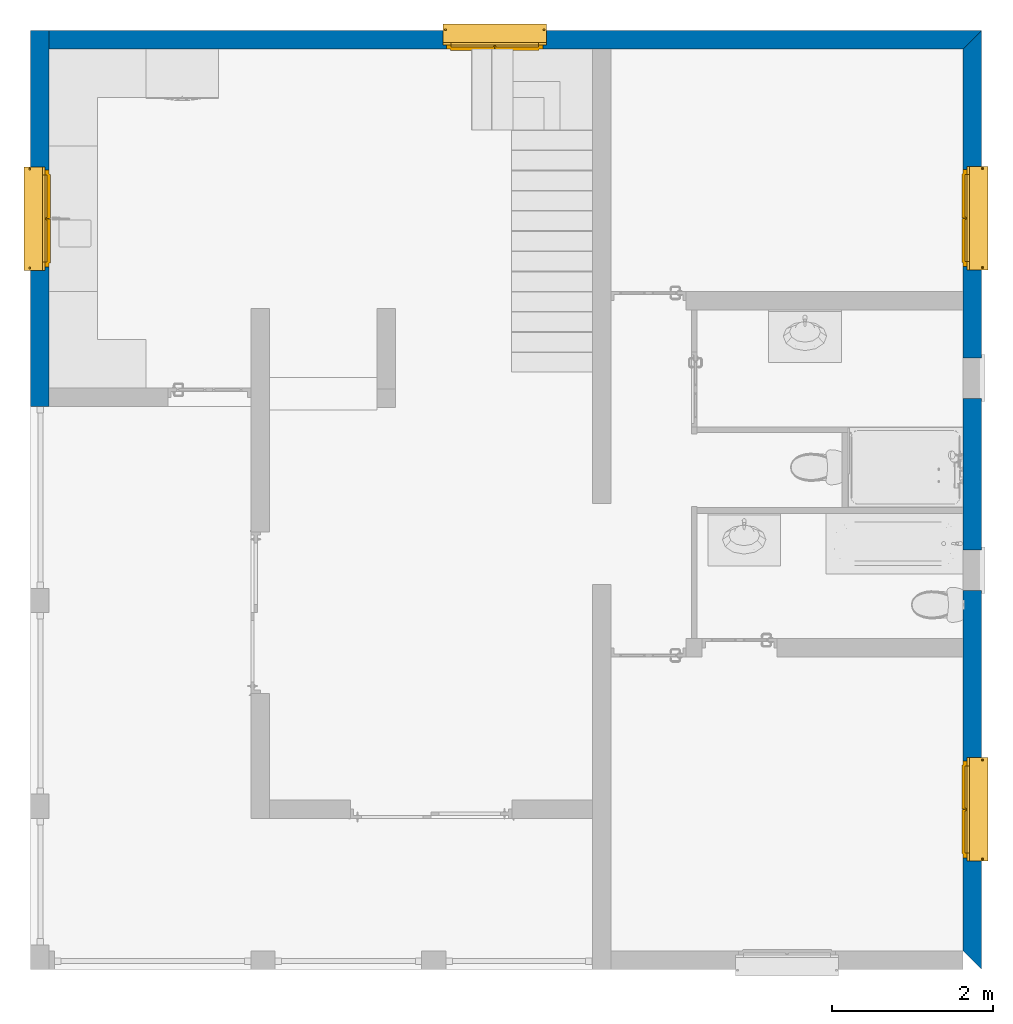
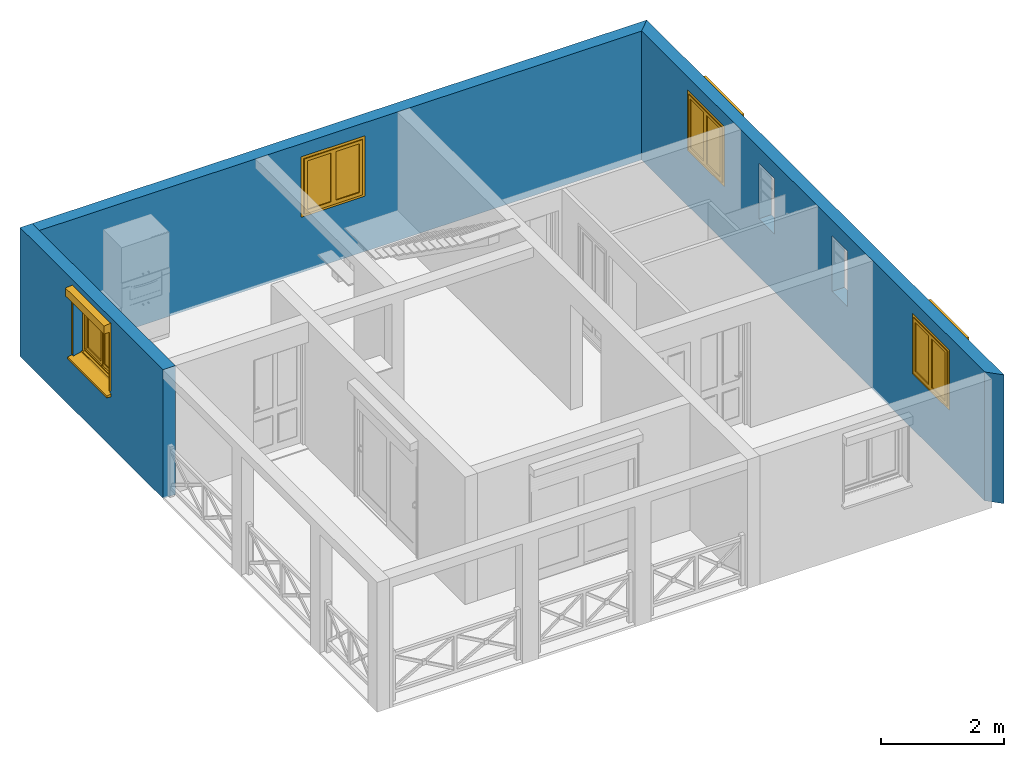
# One storey, part 3 of 17: 4 windows, 3 walls, 6 openings.
"""IFC2X3 building model written with IfcOpenShell, lengths in metres."""

from ifc_helpers import new_model, entity, si_unit, converted_unit, derived_unit, money_unit, direction, frame, origin_with_axes, place, context, subcontext, project, spatial, polyline, outline, extrude, clip, halfspace, bounded_halfspace, faceted_brep, source, transform, mapped, material, layer, layer_set, layer_usage, type_object, element, fill, save


model = new_model("IFC2X3")

# Units and contexts
model_context = context("Model", 3, precision=1e-05, world=origin_with_axes(), true_north=direction((0.0, 1.0)))
body_context = subcontext(model_context, "Body", "Model", "MODEL_VIEW")
ifc_project = project(units=[si_unit("LENGTHUNIT", "METRE"), si_unit("AREAUNIT", "SQUARE_METRE"), si_unit("VOLUMEUNIT", "CUBIC_METRE"), converted_unit("PLANEANGLEUNIT", "DEGREE", entity("IfcPlaneAngleMeasure", 0.0174532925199), si_unit("PLANEANGLEUNIT", "RADIAN"), dimensions=[0, 0, 0, 0, 0, 0, 0]), si_unit("SOLIDANGLEUNIT", "STERADIAN"), money_unit("CHF"), converted_unit("TIMEUNIT", "Year", entity("IfcTimeMeasure", 31556926.0), si_unit("TIMEUNIT", "SECOND"), dimensions=[0, 0, 1, 0, 0, 0, 0]), si_unit("MASSUNIT", "GRAM", prefix="KILO"), si_unit("THERMODYNAMICTEMPERATUREUNIT", "DEGREE_CELSIUS"), si_unit("LUMINOUSINTENSITYUNIT", "LUMEN"), si_unit("ENERGYUNIT", "JOULE", prefix="MEGA"), derived_unit("THERMALCONDUCTANCEUNIT", [(si_unit("POWERUNIT", "WATT"), 1), (si_unit("LENGTHUNIT", "METRE"), -1), (si_unit("THERMODYNAMICTEMPERATUREUNIT", "KELVIN"), -1)]), derived_unit("SPECIFICHEATCAPACITYUNIT", [(si_unit("ENERGYUNIT", "JOULE"), 1), (si_unit("MASSUNIT", "GRAM", prefix="KILO"), -1), (si_unit("THERMODYNAMICTEMPERATUREUNIT", "KELVIN"), -1)]), derived_unit("MASSDENSITYUNIT", [(si_unit("MASSUNIT", "GRAM", prefix="KILO"), 1), (si_unit("VOLUMEUNIT", "CUBIC_METRE"), -1)])], contexts=[model_context])

# Site, building, storey
site_placement = place(None, origin_with_axes())
site = spatial("IfcSite", under=ifc_project, at=site_placement, Name="Site", CompositionType="ELEMENT")
building_placement = place(site_placement, origin_with_axes())
building = spatial("IfcBuilding", under=site, at=building_placement, Name="Bâtiment", CompositionType="ELEMENT")
storey_placement = place(building_placement, frame((0.0, 0.0, 3.0), z_axis=(0.0, 0.0, 1.0), x_axis=(1.0, 0.0, 0.0)))
storey = spatial("IfcBuildingStorey", under=building, at=storey_placement, Name="RDJ", CompositionType="ELEMENT", Elevation=3.0)

# Wall, opening, window
ifc_material = material(Name="Hachure solide 2628782308")
ifc_layer = layer(ifc_material, 0.23, ventilated="UNKNOWN")
ifc_layer_set = layer_set([ifc_layer], Name="Hachure solide 2628782308 0.23")
ifc_layer_usage_1 = layer_usage(ifc_layer_set, "AXIS2", "POSITIVE", -0.23)
wall_type = type_object("IfcWallType", Name="Hachure solide 2628782308 230", PredefinedType="NOTDEFINED")
wall_1_placement = place(storey_placement, frame((85.0135190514, 18.8103410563, -3.05), z_axis=(0.0, 0.0, 1.0), x_axis=(0.0, -1.0, 0.0)))
wall_1 = element("IfcWallStandardCase", 1, at=wall_1_placement, inside=storey, type_object=wall_type, material=ifc_layer_usage_1, Name="MurExt-008", context=body_context, shape_type="Clipping", body=[
    clip(extrude(outline(polyline([(0.0, -0.23), (4.66, -0.23), (4.66, 0.0), (0.0, 0.0), (0.0, -0.23)])), origin_with_axes(), (0.0, 0.0, 1.0), 2.56), halfspace(frame((0.0, -1.31271539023, 2.27368975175), z_axis=(0.0, 0.5, -0.866025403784), x_axis=(0.0, 0.866025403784, 0.5)), True)),
])
opening_1_placement = place(wall_1_placement, frame((2.33, 0.0, 1.1), z_axis=(0.0, 0.0, 1.0), x_axis=(1.0, 0.0, 0.0)))
opening_1 = element("IfcOpeningElement", 2, at=opening_1_placement, cuts=wall_1, Name="Fen-009", context=body_context, shape_type="SweptSolid", body=[
    extrude(outline(polyline([(0.6, 0.0), (-0.6, 0.0), (-0.6, -0.9), (0.0, 0.0), (0.6, -0.9), (0.6, 0.0)])), frame((0.0, 0.23, 0.0), z_axis=(0.0, 1.0, 0.0), x_axis=(1.0, 0.0, 0.0)), (0.0, 0.0, -1.0), 0.46),
    extrude(outline(polyline([(-0.6, -1.2), (0.6, -1.2), (0.6, 0.0), (-0.6, 0.0), (-0.6, -1.2)])), frame((0.0, 0.23, 0.0), z_axis=(0.0, 1.0, 0.0), x_axis=(1.0, 0.0, 0.0)), (0.0, 0.0, -1.0), 0.46),
    extrude(outline(polyline([(0.6, -0.1), (0.6, 0.001), (-0.6, 0.001), (-0.6, -0.1), (0.6, -0.1)])), frame((0.0, -0.05, 0.0), z_axis=(0.0, -1.0, 0.0), x_axis=(1.0, 0.0, 0.0)), (0.0, 0.0, 1.0), 0.23),
])
window_style = type_object("IfcWindowStyle", Name="Fenêtre 2v", ConstructionType="NOTDEFINED", OperationType="NOTDEFINED", ParameterTakesPrecedence=False, Sizeable=False)
shared_shape = source(origin_with_axes(), body_context, "Body", "Brep", [
    faceted_brep([(0.6, -0.23, 0.0), (0.54, -0.23, 0.0), (0.54, -0.18, 0.0), (0.6, -0.18, 0.0), (0.6, -0.23, 1.2), (-0.6, -0.23, 1.2), (-0.6, -0.23, 0.0), (-0.54, -0.23, 0.0), (-0.54, -0.23, 1.14), (0.54, -0.23, 1.14), (0.54, -0.18, 1.14), (-0.54, -0.18, 1.14), (-0.54, -0.18, 0.0), (-0.6, -0.18, 0.0), (-0.6, -0.18, 1.2), (0.6, -0.18, 1.2)], [[[0, 1, 2, 3]], [[0, 4, 5, 6, 7, 8, 9, 1]], [[1, 9, 10, 2]], [[3, 2, 10, 11, 12, 13, 14, 15]], [[4, 0, 3, 15]], [[5, 4, 15, 14]], [[6, 5, 14, 13]], [[7, 6, 13, 12]], [[8, 7, 12, 11]], [[9, 8, 11, 10]]]),
    faceted_brep([(-0.54, -0.23, 0.0), (-0.54, -0.23, 0.06), (-0.54, -0.18, 0.06), (-0.54, -0.18, 0.0), (0.54, -0.23, 0.0), (0.54, -0.23, 0.06), (0.54, -0.18, 0.06), (0.54, -0.18, 0.0)], [[[0, 1, 2, 3]], [[0, 4, 5, 1]], [[1, 5, 6, 2]], [[3, 2, 6, 7]], [[4, 0, 3, 7]], [[5, 4, 7, 6]]]),
    faceted_brep([(-0.54, -0.15, 0.0), (-0.54, -0.18, 0.0), (-0.54, -0.18, 0.04), (-0.54, -0.15, 0.02), (0.54, -0.15, 0.0), (0.54, -0.18, 0.0), (0.54, -0.18, 0.04), (0.54, -0.15, 0.02)], [[[0, 1, 2, 3]], [[0, 4, 5, 1]], [[1, 5, 6, 2]], [[3, 2, 6, 7]], [[4, 0, 3, 7]], [[5, 4, 7, 6]]]),
    faceted_brep([(0.05, -0.2275, 0.12), (0.49, -0.2275, 0.12), (0.49, -0.2275, 1.0899), (0.05, -0.2275, 1.0899), (0.05, -0.2225, 0.12), (0.49, -0.2225, 0.12), (0.49, -0.2225, 1.0899), (0.05, -0.2225, 1.0899)], [[[0, 1, 2, 3]], [[4, 5, 1, 0]], [[6, 2, 1, 5]], [[3, 2, 6, 7]], [[7, 4, 0, 3]], [[7, 6, 5, 4]]]),
    faceted_brep([(-0.05, -0.2225, 1.0899), (-0.49, -0.2225, 1.0899), (-0.49, -0.2275, 1.0899), (-0.05, -0.2275, 1.0899), (-0.05, -0.2225, 0.12), (-0.49, -0.2225, 0.12), (-0.49, -0.2275, 0.12), (-0.05, -0.2275, 0.12)], [[[0, 1, 2, 3]], [[4, 5, 1, 0]], [[5, 6, 2, 1]], [[3, 2, 6, 7]], [[7, 4, 0, 3]], [[7, 6, 5, 4]]]),
    faceted_brep([(-0.05, -0.245, 1.091), (-0.0025, -0.245, 1.091), (-0.0025, -0.245, 1.14), (0.0025, -0.245, 1.14), (0.0025, -0.245, 1.091), (0.05, -0.245, 1.091), (0.05, -0.245, 1.0899), (0.49, -0.245, 1.0899), (0.49, -0.245, 0.12), (0.548, -0.245, 0.12), (0.548, -0.245, 1.1479), (-0.548, -0.245, 1.1479), (-0.548, -0.245, 0.12), (-0.49, -0.245, 0.12), (-0.49, -0.245, 1.0899), (-0.05, -0.245, 1.0899), (-0.05, -0.205, 1.091), (-0.0025, -0.205, 1.091), (-0.0025, -0.205, 1.1399), (-0.0025, -0.23, 1.1399), (-0.0025, -0.23, 1.14), (0.0025, -0.23, 1.14), (0.0025, -0.23, 1.1399), (0.0025, -0.205, 1.1399), (0.0025, -0.205, 1.091), (0.05, -0.205, 1.091), (0.05, -0.205, 1.0899), (0.49, -0.205, 1.0899), (0.49, -0.205, 0.12), (0.54, -0.205, 0.12), (0.54, -0.23, 0.12), (0.55, -0.23, 0.12), (0.55, -0.23, 1.1499), (-0.55, -0.23, 1.1499), (-0.55, -0.23, 0.12), (-0.54, -0.205, 0.12), (-0.49, -0.205, 0.12), (-0.54, -0.23, 0.12), (-0.49, -0.205, 1.0899), (-0.05, -0.205, 1.0899), (-0.54, -0.205, 1.1399), (-0.54, -0.23, 1.1399), (0.54, -0.23, 1.1399), (0.54, -0.205, 1.1399)], [[[0, 1, 2, 3, 4, 5, 6, 7, 8, 9, 10, 11, 12, 13, 14, 15]], [[0, 16, 17, 1]], [[17, 18, 19, 20, 2, 1]], [[3, 2, 20, 21]], [[4, 3, 21, 22, 23, 24]], [[24, 25, 5, 4]], [[5, 25, 26, 6]], [[26, 27, 7, 6]], [[28, 8, 7, 27]], [[29, 30, 31, 9, 8, 28]], [[9, 31, 32, 10]], [[10, 32, 33, 11]], [[11, 33, 34, 12]], [[35, 36, 13, 12, 34, 37]], [[38, 14, 13, 36]], [[15, 14, 38, 39]], [[15, 39, 16, 0]], [[16, 39, 38, 36, 35, 40, 18, 17]], [[19, 18, 40, 41]], [[41, 37, 34, 33, 32, 31, 30, 42, 22, 21, 20, 19]], [[23, 22, 42, 43]], [[25, 24, 23, 43, 29, 28, 27, 26]], [[30, 29, 43, 42]], [[41, 40, 35, 37]]]),
    faceted_brep([(-0.54, -0.23, 0.12), (-0.55, -0.23, 0.12), (-0.548, -0.245, 0.12), (-0.54, -0.245, 0.12), (-0.54, -0.23, 0.06), (-0.0025, -0.23, 0.06), (-0.0025, -0.23, 0.05), (-0.55, -0.23, 0.05), (-0.548, -0.245, 0.052), (-0.54, -0.245, 0.06), (-0.0025, -0.245, 0.052), (-0.0025, -0.245, 0.06)], [[[0, 1, 2, 3]], [[4, 5, 6, 7, 1, 0]], [[2, 1, 7, 8]], [[9, 3, 2, 8, 10, 11]], [[9, 4, 0, 3]], [[11, 5, 4, 9]], [[11, 10, 6, 5]], [[6, 10, 8, 7]]]),
    faceted_brep([(0.0025, -0.23, 0.06), (0.0025, -0.23, 0.05), (0.0025, -0.245, 0.052), (0.0025, -0.245, 0.06), (0.54, -0.23, 0.06), (0.54, -0.23, 0.12), (0.55, -0.23, 0.12), (0.55, -0.23, 0.05), (0.548, -0.245, 0.052), (0.54, -0.245, 0.06), (0.548, -0.245, 0.12), (0.54, -0.245, 0.12)], [[[0, 1, 2, 3]], [[4, 5, 6, 7, 1, 0]], [[2, 1, 7, 8]], [[9, 3, 2, 8, 10, 11]], [[9, 4, 0, 3]], [[5, 4, 9, 11]], [[11, 10, 6, 5]], [[8, 7, 6, 10]]]),
    faceted_brep([(-0.05, -0.205, 0.12), (-0.49, -0.205, 0.12), (-0.49, -0.245, 0.12), (-0.05, -0.245, 0.12), (-0.05, -0.205, 0.119), (-0.0025, -0.205, 0.119), (-0.0025, -0.205, 0.06), (-0.54, -0.205, 0.06), (-0.54, -0.205, 0.12), (-0.54, -0.245, 0.12), (-0.05, -0.245, 0.119), (-0.54, -0.245, 0.06), (-0.0025, -0.245, 0.06), (-0.0025, -0.245, 0.119)], [[[0, 1, 2, 3]], [[4, 5, 6, 7, 8, 1, 0]], [[1, 8, 9, 2]], [[10, 3, 2, 9, 11, 12, 13]], [[10, 4, 0, 3]], [[13, 5, 4, 10]], [[13, 12, 6, 5]], [[6, 12, 11, 7]], [[8, 7, 11, 9]]]),
    faceted_brep([(0.0025, -0.205, 0.119), (0.0025, -0.205, 0.06), (0.0025, -0.245, 0.06), (0.0025, -0.245, 0.119), (0.05, -0.205, 0.119), (0.05, -0.205, 0.12), (0.49, -0.205, 0.12), (0.54, -0.205, 0.12), (0.54, -0.205, 0.06), (0.54, -0.245, 0.06), (0.05, -0.245, 0.119), (0.54, -0.245, 0.12), (0.49, -0.245, 0.12), (0.05, -0.245, 0.12)], [[[0, 1, 2, 3]], [[4, 5, 6, 7, 8, 1, 0]], [[2, 1, 8, 9]], [[10, 3, 2, 9, 11, 12, 13]], [[10, 4, 0, 3]], [[5, 4, 10, 13]], [[13, 12, 11, 7, 6, 5]], [[8, 7, 11, 9]]]),
    faceted_brep([(0.0025, -0.245, 0.119), (0.05, -0.245, 0.119), (0.05, -0.245, 1.091), (0.0025, -0.245, 1.091), (0.0025, -0.205, 0.119), (0.05, -0.205, 0.119), (0.05, -0.205, 1.091), (0.0025, -0.205, 1.091)], [[[0, 1, 2, 3]], [[4, 5, 1, 0]], [[6, 2, 1, 5]], [[3, 2, 6, 7]], [[7, 4, 0, 3]], [[7, 6, 5, 4]]]),
    faceted_brep([(-0.0025, -0.205, 1.091), (-0.05, -0.205, 1.091), (-0.05, -0.245, 1.091), (-0.0025, -0.245, 1.091), (-0.0025, -0.205, 0.119), (-0.05, -0.205, 0.119), (-0.05, -0.245, 0.119), (-0.0025, -0.245, 0.119)], [[[0, 1, 2, 3]], [[4, 5, 1, 0]], [[5, 6, 2, 1]], [[3, 2, 6, 7]], [[7, 4, 0, 3]], [[7, 6, 5, 4]]]),
    faceted_brep([(0.0166666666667, -0.205, 0.06), (-0.0166666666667, -0.205, 0.06), (-0.0166666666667, -0.195, 0.06), (0.0166666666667, -0.195, 0.06), (0.0166666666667, -0.205, 1.14), (-0.0166666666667, -0.205, 1.14), (-0.0166666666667, -0.195, 1.14), (0.0166666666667, -0.195, 1.14)], [[[0, 1, 2, 3]], [[0, 4, 5, 1]], [[1, 5, 6, 2]], [[3, 2, 6, 7]], [[4, 0, 3, 7]], [[5, 4, 7, 6]]]),
    faceted_brep([(0.64, -0.18, -0.1), (0.64, -0.18, 0.0), (-0.64, -0.18, 0.0), (-0.64, -0.18, -0.1), (0.64, 0.06, -0.1), (0.64, 0.06, -0.094), (0.64, 0.07, -0.094), (0.64, 0.07, -0.1), (0.64, 0.08, -0.1), (0.64, 0.08, -0.06), (0.64, -0.13, -0.02), (0.64, -0.134126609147, -0.0188422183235), (0.64, -0.13799671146, -0.0170005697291), (0.64, -0.141497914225, -0.014528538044), (0.64, -0.144528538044, -0.0114979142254), (0.64, -0.147000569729, -0.00799671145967), (0.64, -0.148842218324, -0.00412660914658), (0.64, -0.15, 0.0), (-0.64, -0.15, 0.0), (-0.64, -0.148842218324, -0.00412660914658), (-0.64, -0.147000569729, -0.00799671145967), (-0.64, -0.144528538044, -0.0114979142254), (-0.64, -0.141497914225, -0.014528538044), (-0.64, -0.13799671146, -0.0170005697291), (-0.64, -0.134126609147, -0.0188422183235), (-0.64, -0.13, -0.02), (-0.64, 0.08, -0.06), (-0.64, 0.08, -0.1), (-0.64, 0.07, -0.1), (-0.64, 0.07, -0.094), (-0.64, 0.06, -0.094), (-0.64, 0.06, -0.1)], [[[0, 1, 2, 3]], [[0, 4, 5, 6, 7, 8, 9, 10, 11, 12, 13, 14, 15, 16, 17, 1]], [[1, 17, 18, 2]], [[3, 2, 18, 19, 20, 21, 22, 23, 24, 25, 26, 27, 28, 29, 30, 31]], [[4, 0, 3, 31]], [[5, 4, 31, 30]], [[6, 5, 30, 29]], [[7, 6, 29, 28]], [[8, 7, 28, 27]], [[9, 8, 27, 26]], [[10, 9, 26, 25]], [[11, 10, 25, 24]], [[12, 11, 24, 23]], [[13, 12, 23, 22]], [[14, 13, 22, 21]], [[15, 14, 21, 20]], [[16, 15, 20, 19]], [[17, 16, 19, 18]]]),
    faceted_brep([(-0.625, 0.0, 1.35), (-0.625, 0.0, 1.2), (-0.622, 0.0, 1.2), (-0.622, 0.0, 1.35), (-0.625, 0.13, 1.33862647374), (-0.625, 0.13, 1.18), (-0.625, 0.127, 1.18), (-0.625, 0.021, 1.18), (-0.625, 0.021, 1.2), (-0.622, 0.021, 1.2), (-0.622, 0.021, 1.18), (-0.622, 0.127, 1.18), (-0.622, 0.13, 1.18), (-0.622, 0.13, 1.33862647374)], [[[0, 1, 2, 3]], [[0, 4, 5, 6, 7, 8, 1]], [[1, 8, 9, 2]], [[3, 2, 9, 10, 11, 12, 13]], [[4, 0, 3, 13]], [[5, 4, 13, 12]], [[6, 5, 12, 11]], [[7, 6, 11, 10]], [[8, 7, 10, 9]]]),
    faceted_brep([(0.622, 0.018, 1.203), (0.622, 0.127, 1.203), (-0.622, 0.127, 1.203), (-0.622, 0.018, 1.203), (0.622, 0.018, 1.2), (0.622, 0.127, 1.2), (0.622, 0.127, 1.18), (0.622, 0.13, 1.18), (0.622, 0.13, 1.33862647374), (0.622, 0.0, 1.35), (0.622, 0.0, 1.34698854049), (0.622, 0.127, 1.33587748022), (-0.622, 0.127, 1.33587748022), (-0.622, 0.0, 1.34698854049), (-0.622, 0.0, 1.35), (-0.622, 0.13, 1.33862647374), (-0.622, 0.13, 1.18), (-0.622, 0.127, 1.18), (-0.622, 0.127, 1.2), (-0.622, 0.018, 1.2)], [[[0, 1, 2, 3]], [[4, 5, 6, 7, 8, 9, 10, 11, 1, 0]], [[12, 2, 1, 11]], [[3, 2, 12, 13, 14, 15, 16, 17, 18, 19]], [[19, 4, 0, 3]], [[19, 18, 5, 4]], [[6, 5, 18, 17]], [[7, 6, 17, 16]], [[8, 7, 16, 15]], [[9, 8, 15, 14]], [[13, 10, 9, 14]], [[13, 12, 11, 10]]]),
    faceted_brep([(0.622, 0.0, 1.35), (0.622, 0.0, 1.2), (0.625, 0.0, 1.2), (0.625, 0.0, 1.35), (0.622, 0.13, 1.33862647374), (0.622, 0.13, 1.18), (0.622, 0.127, 1.18), (0.622, 0.021, 1.18), (0.622, 0.021, 1.2), (0.625, 0.021, 1.2), (0.625, 0.021, 1.18), (0.625, 0.127, 1.18), (0.625, 0.13, 1.18), (0.625, 0.13, 1.33862647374)], [[[0, 1, 2, 3]], [[0, 4, 5, 6, 7, 8, 1]], [[1, 8, 9, 2]], [[3, 2, 9, 10, 11, 12, 13]], [[4, 0, 3, 13]], [[5, 4, 13, 12]], [[6, 5, 12, 11]], [[7, 6, 11, 10]], [[8, 7, 10, 9]]]),
    faceted_brep([(-0.6, 0.021, 1.18), (-0.6, 0.021, 0.0), (-0.625, 0.021, 0.0), (-0.625, 0.021, 1.18), (-0.6, 0.018, 1.18), (-0.6, 0.018, 0.0), (-0.622, 0.018, 0.0), (-0.622, 0.003, 0.0), (-0.6, 0.003, 0.0), (-0.6, 0.0, 0.0), (-0.625, 0.0, 0.0), (-0.625, 0.0, 1.18), (-0.6, 0.0, 1.18), (-0.6, 0.003, 1.18), (-0.622, 0.003, 1.18), (-0.622, 0.018, 1.18)], [[[0, 1, 2, 3]], [[4, 5, 1, 0]], [[1, 5, 6, 7, 8, 9, 10, 2]], [[3, 2, 10, 11]], [[0, 3, 11, 12, 13, 14, 15, 4]], [[15, 6, 5, 4]], [[14, 7, 6, 15]], [[13, 8, 7, 14]], [[12, 9, 8, 13]], [[11, 10, 9, 12]]]),
    faceted_brep([(-0.6, 0.003, 0.003), (-0.6, 0.003, 0.0), (-0.6, 0.018, 0.0), (-0.6, 0.018, 0.003), (-0.622, 0.003, 0.003), (-0.622, 0.003, 0.0), (-0.622, 0.018, 0.0), (-0.622, 0.018, 0.003)], [[[0, 1, 2, 3]], [[4, 5, 1, 0]], [[1, 5, 6, 2]], [[3, 2, 6, 7]], [[0, 3, 7, 4]], [[7, 6, 5, 4]]]),
    faceted_brep([(-0.6, 0.021, 1.2), (-0.6, 0.021, 1.18), (-0.625, 0.021, 1.18), (-0.625, 0.021, 1.2), (-0.6, 0.018, 1.2), (-0.6, 0.018, 1.18), (-0.622, 0.018, 1.18), (-0.622, 0.003, 1.18), (-0.6, 0.003, 1.18), (-0.6, 0.0, 1.18), (-0.625, 0.0, 1.18), (-0.625, 0.0, 1.2), (-0.6, 0.0, 1.2), (-0.6, 0.003, 1.2), (-0.622, 0.003, 1.2), (-0.622, 0.018, 1.2)], [[[0, 1, 2, 3]], [[4, 5, 1, 0]], [[1, 5, 6, 7, 8, 9, 10, 2]], [[3, 2, 10, 11]], [[0, 3, 11, 12, 13, 14, 15, 4]], [[15, 6, 5, 4]], [[14, 7, 6, 15]], [[13, 8, 7, 14]], [[12, 9, 8, 13]], [[11, 10, 9, 12]]]),
    faceted_brep([(0.6, 0.021, 1.18), (0.625, 0.021, 1.18), (0.625, 0.021, 0.0), (0.6, 0.021, 0.0), (0.6, 0.018, 1.18), (0.622, 0.018, 1.18), (0.622, 0.003, 1.18), (0.6, 0.003, 1.18), (0.6, 0.0, 1.18), (0.625, 0.0, 1.18), (0.625, 0.0, 0.0), (0.6, 0.0, 0.0), (0.6, 0.003, 0.0), (0.622, 0.003, 0.0), (0.622, 0.018, 0.0), (0.6, 0.018, 0.0)], [[[0, 1, 2, 3]], [[0, 4, 5, 6, 7, 8, 9, 1]], [[1, 9, 10, 2]], [[3, 2, 10, 11, 12, 13, 14, 15]], [[4, 0, 3, 15]], [[5, 4, 15, 14]], [[6, 5, 14, 13]], [[7, 6, 13, 12]], [[8, 7, 12, 11]], [[9, 8, 11, 10]]]),
    faceted_brep([(0.6, 0.003, 0.003), (0.6, 0.018, 0.003), (0.6, 0.018, 0.0), (0.6, 0.003, 0.0), (0.622, 0.003, 0.003), (0.622, 0.018, 0.003), (0.622, 0.018, 0.0), (0.622, 0.003, 0.0)], [[[0, 1, 2, 3]], [[0, 4, 5, 1]], [[1, 5, 6, 2]], [[3, 2, 6, 7]], [[4, 0, 3, 7]], [[5, 4, 7, 6]]]),
    faceted_brep([(0.6, 0.021, 1.2), (0.625, 0.021, 1.2), (0.625, 0.021, 1.18), (0.6, 0.021, 1.18), (0.6, 0.018, 1.2), (0.622, 0.018, 1.2), (0.622, 0.003, 1.2), (0.6, 0.003, 1.2), (0.6, 0.0, 1.2), (0.625, 0.0, 1.2), (0.625, 0.0, 1.18), (0.6, 0.0, 1.18), (0.6, 0.003, 1.18), (0.622, 0.003, 1.18), (0.622, 0.018, 1.18), (0.6, 0.018, 1.18)], [[[0, 1, 2, 3]], [[0, 4, 5, 6, 7, 8, 9, 1]], [[1, 9, 10, 2]], [[3, 2, 10, 11, 12, 13, 14, 15]], [[4, 0, 3, 15]], [[5, 4, 15, 14]], [[6, 5, 14, 13]], [[7, 6, 13, 12]], [[8, 7, 12, 11]], [[9, 8, 11, 10]]]),
    faceted_brep([(-0.622, 0.0113089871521, 1.26006647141), (-0.622, 0.0105, 1.26931323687), (-0.622, 0.0113089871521, 1.27856000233), (-0.622, 0.0137113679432, 1.2875258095), (-0.622, 0.0176341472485, 1.29593823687), (-0.622, 0.0229581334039, 1.30354167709), (-0.622, 0.0295215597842, 1.31010510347), (-0.622, 0.037125, 1.31542908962), (-0.622, 0.0455374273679, 1.31935186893), (-0.622, 0.0545032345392, 1.32175424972), (-0.622, 0.06375, 1.32256323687), (-0.622, 0.0729967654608, 1.32175424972), (-0.622, 0.0819625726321, 1.31935186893), (-0.622, 0.090375, 1.31542908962), (-0.622, 0.0979784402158, 1.31010510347), (-0.622, 0.104541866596, 1.30354167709), (-0.622, 0.109865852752, 1.29593823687), (-0.622, 0.113788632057, 1.2875258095), (-0.622, 0.116191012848, 1.27856000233), (-0.622, 0.117, 1.26931323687), (-0.622, 0.116191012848, 1.26006647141), (-0.622, 0.113788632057, 1.25110066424), (-0.622, 0.109865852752, 1.24268823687), (-0.622, 0.104541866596, 1.23508479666), (-0.622, 0.0979784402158, 1.22852137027), (-0.622, 0.090375, 1.22319738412), (-0.622, 0.0819625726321, 1.21927460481), (-0.622, 0.0729967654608, 1.21687222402), (-0.622, 0.06375, 1.21606323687), (-0.622, 0.0545032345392, 1.21687222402), (-0.622, 0.0455374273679, 1.21927460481), (-0.622, 0.037125, 1.22319738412), (-0.622, 0.0295215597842, 1.22852137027), (-0.622, 0.0229581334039, 1.23508479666), (-0.622, 0.0176341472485, 1.24268823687), (-0.622, 0.0137113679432, 1.25110066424), (0.622, 0.0113089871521, 1.26006647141), (0.622, 0.0105, 1.26931323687), (0.622, 0.0113089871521, 1.27856000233), (0.622, 0.0137113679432, 1.2875258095), (0.622, 0.0176341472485, 1.29593823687), (0.622, 0.0229581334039, 1.30354167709), (0.622, 0.0295215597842, 1.31010510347), (0.622, 0.037125, 1.31542908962), (0.622, 0.0455374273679, 1.31935186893), (0.622, 0.0545032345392, 1.32175424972), (0.622, 0.06375, 1.32256323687), (0.622, 0.0729967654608, 1.32175424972), (0.622, 0.0819625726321, 1.31935186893), (0.622, 0.090375, 1.31542908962), (0.622, 0.0979784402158, 1.31010510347), (0.622, 0.104541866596, 1.30354167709), (0.622, 0.109865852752, 1.29593823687), (0.622, 0.113788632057, 1.2875258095), (0.622, 0.116191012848, 1.27856000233), (0.622, 0.117, 1.26931323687), (0.622, 0.116191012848, 1.26006647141), (0.622, 0.113788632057, 1.25110066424), (0.622, 0.109865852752, 1.24268823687), (0.622, 0.104541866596, 1.23508479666), (0.622, 0.0979784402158, 1.22852137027), (0.622, 0.090375, 1.22319738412), (0.622, 0.0819625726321, 1.21927460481), (0.622, 0.0729967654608, 1.21687222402), (0.622, 0.06375, 1.21606323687), (0.622, 0.0545032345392, 1.21687222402), (0.622, 0.0455374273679, 1.21927460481), (0.622, 0.037125, 1.22319738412), (0.622, 0.0295215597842, 1.22852137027), (0.622, 0.0229581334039, 1.23508479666), (0.622, 0.0176341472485, 1.24268823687), (0.622, 0.0137113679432, 1.25110066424)], [[[0, 1, 2, 3, 4, 5, 6, 7, 8, 9, 10, 11, 12, 13, 14, 15, 16, 17, 18, 19, 20, 21, 22, 23, 24, 25, 26, 27, 28, 29, 30, 31, 32, 33, 34, 35]], [[0, 36, 37, 1]], [[1, 37, 38, 2]], [[2, 38, 39, 3]], [[3, 39, 40, 4]], [[4, 40, 41, 5]], [[5, 41, 42, 6]], [[6, 42, 43, 7]], [[7, 43, 44, 8]], [[8, 44, 45, 9]], [[9, 45, 46, 10]], [[10, 46, 47, 11]], [[11, 47, 48, 12]], [[12, 48, 49, 13]], [[13, 49, 50, 14]], [[14, 50, 51, 15]], [[15, 51, 52, 16]], [[16, 52, 53, 17]], [[17, 53, 54, 18]], [[18, 54, 55, 19]], [[19, 55, 56, 20]], [[20, 56, 57, 21]], [[21, 57, 58, 22]], [[22, 58, 59, 23]], [[23, 59, 60, 24]], [[24, 60, 61, 25]], [[25, 61, 62, 26]], [[26, 62, 63, 27]], [[27, 63, 64, 28]], [[28, 64, 65, 29]], [[29, 65, 66, 30]], [[30, 66, 67, 31]], [[31, 67, 68, 32]], [[32, 68, 69, 33]], [[33, 69, 70, 34]], [[34, 70, 71, 35]], [[35, 71, 36, 0]], [[36, 71, 70, 69, 68, 67, 66, 65, 64, 63, 62, 61, 60, 59, 58, 57, 56, 55, 54, 53, 52, 51, 50, 49, 48, 47, 46, 45, 44, 43, 42, 41, 40, 39, 38, 37]]]),
    faceted_brep([(0.622, 0.00966666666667, 1.26931323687), (-0.622, 0.00966666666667, 1.26931323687), (-0.622, 0.00966666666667, 1.26666666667), (0.622, 0.00966666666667, 1.26666666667), (0.622, 0.0146666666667, 1.26931323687), (-0.622, 0.0146666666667, 1.26931323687), (-0.622, 0.0146666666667, 1.26666666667), (-0.622, 0.013, 1.25), (-0.622, 0.008, 1.25), (0.622, 0.008, 1.25), (0.622, 0.013, 1.25), (0.622, 0.0146666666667, 1.26666666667)], [[[0, 1, 2, 3]], [[1, 0, 4, 5]], [[1, 5, 6, 7, 8, 2]], [[2, 8, 9, 3]], [[4, 0, 3, 9, 10, 11]], [[6, 5, 4, 11]], [[7, 6, 11, 10]], [[8, 7, 10, 9]]]),
    faceted_brep([(-0.622, 0.008, 1.25), (-0.622, 0.00966666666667, 1.23333333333), (0.622, 0.00966666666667, 1.23333333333), (0.622, 0.008, 1.25), (-0.622, 0.013, 1.25), (-0.622, 0.0146666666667, 1.23333333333), (-0.622, 0.0146666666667, 1.21666666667), (-0.622, 0.013, 1.2), (-0.622, 0.008, 1.2), (-0.622, 0.00966666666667, 1.21666666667), (0.622, 0.00966666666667, 1.21666666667), (0.622, 0.008, 1.2), (0.622, 0.013, 1.2), (0.622, 0.0146666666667, 1.21666666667), (0.622, 0.0146666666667, 1.23333333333), (0.622, 0.013, 1.25)], [[[0, 1, 2, 3]], [[0, 4, 5, 6, 7, 8, 9, 1]], [[1, 9, 10, 2]], [[3, 2, 10, 11, 12, 13, 14, 15]], [[4, 0, 3, 15]], [[5, 4, 15, 14]], [[6, 5, 14, 13]], [[7, 6, 13, 12]], [[8, 7, 12, 11]], [[9, 8, 11, 10]]]),
])
window_1_placement = place(opening_1_placement, frame((0.6, 0.0, 0.0), z_axis=(0.0, 0.0, 1.0), x_axis=(-1.0, 0.0, 0.0)))
window_1 = element("IfcWindow", 3, at=window_1_placement, inside=storey, type_object=window_style, Name="Fen-009", OverallHeight=1.2, OverallWidth=1.2, context=body_context, shape_type="MappedRepresentation", body=[
    mapped(shared_shape, transform((0.6, 0.23, 0.0))),
])
fill(opening_1, window_1)

# Wall, openings, windows
ifc_layer_usage_2 = layer_usage(ifc_layer_set, "AXIS2", "POSITIVE", -0.23)
wall_2_placement = place(storey_placement, frame((96.5635190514, 18.8103410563, -3.05), z_axis=(0.0, 0.0, 1.0), x_axis=(0.0, -1.0, 0.0)))
wall_2 = element("IfcWallStandardCase", 4, at=wall_2_placement, inside=storey, type_object=wall_type, material=ifc_layer_usage_2, Name="MurExt-008", context=body_context, shape_type="Clipping", body=[
    clip(extrude(outline(polyline([(0.23, -0.23), (11.4, -0.23), (11.63, 0.0), (0.0, 0.0), (0.23, -0.23)])), origin_with_axes(), (0.0, 0.0, 1.0), 2.56), bounded_halfspace(frame((0.0, 1.25521538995, 2.17409682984), z_axis=(0.0, -0.5, -0.866025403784), x_axis=(0.0, 0.866025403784, -0.5)), True, origin_with_axes(), polyline([(-0.280010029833, -0.24), (11.910010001, -0.24), (11.910010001, 0.01), (-0.280010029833, 0.01), (-0.280010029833, -0.24)]))),
])
opening_2_placement = place(wall_2_placement, frame((6.68515208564, 0.0, 1.25), z_axis=(0.0, 0.0, 1.0), x_axis=(1.0, 0.0, 0.0)))
element("IfcOpeningElement", 5, at=opening_2_placement, cuts=wall_2, Name="Fen-033", context=body_context, shape_type="SweptSolid", body=[
    extrude(outline(polyline([(0.25, 0.1), (-0.25, 0.1), (-0.25, -1.0), (0.25, -1.0), (0.25, 0.1)])), frame((0.0, -0.23, 0.0), z_axis=(0.0, -1.0, 0.0), x_axis=(-1.0, 0.0, 0.0)), (0.0, 0.0, -1.0), 0.46),
])
opening_3_placement = place(wall_2_placement, frame((4.30484791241, 0.0, 1.25), z_axis=(0.0, 0.0, 1.0), x_axis=(1.0, 0.0, 0.0)))
element("IfcOpeningElement", 6, at=opening_3_placement, cuts=wall_2, Name="Fen-032", context=body_context, shape_type="SweptSolid", body=[
    extrude(outline(polyline([(0.25, 0.1), (-0.25, 0.1), (-0.25, -1.0), (0.25, -1.0), (0.25, 0.1)])), frame((0.0, -0.23, 0.0), z_axis=(0.0, 1.0, 0.0), x_axis=(1.0, 0.0, 0.0)), (0.0, 0.0, 1.0), 0.46),
])
opening_4_placement = place(wall_2_placement, frame((9.6472909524, 0.0, 1.1), z_axis=(0.0, 0.0, 1.0), x_axis=(1.0, 0.0, 0.0)))
opening_4 = element("IfcOpeningElement", 7, at=opening_4_placement, cuts=wall_2, Name="Fen-012", context=body_context, shape_type="SweptSolid", body=[
    extrude(outline(polyline([(0.6, 0.0), (-0.6, 0.0), (-0.6, -0.9), (0.0, 0.0), (0.6, -0.9), (0.6, 0.0)])), frame((0.0, -0.23, 0.0), z_axis=(0.0, -1.0, 0.0), x_axis=(-1.0, 0.0, 0.0)), (0.0, 0.0, -1.0), 0.46),
    extrude(outline(polyline([(-0.6, -1.2), (0.6, -1.2), (0.6, 0.0), (-0.6, 0.0), (-0.6, -1.2)])), frame((0.0, -0.23, 0.0), z_axis=(0.0, -1.0, 0.0), x_axis=(-1.0, 0.0, 0.0)), (0.0, 0.0, -1.0), 0.46),
    extrude(outline(polyline([(0.6, -0.1), (0.6, 0.001), (-0.6, 0.001), (-0.6, -0.1), (0.6, -0.1)])), frame((0.0, -0.18, 0.0), z_axis=(0.0, 1.0, 0.0), x_axis=(-1.0, 0.0, 0.0)), (0.0, 0.0, 1.0), 0.23),
])
opening_5_placement = place(wall_2_placement, frame((2.32356079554, 0.0, 1.1), z_axis=(0.0, 0.0, 1.0), x_axis=(1.0, 0.0, 0.0)))
opening_5 = element("IfcOpeningElement", 8, at=opening_5_placement, cuts=wall_2, Name="Fen-012", context=body_context, shape_type="SweptSolid", body=[
    extrude(outline(polyline([(0.6, 0.0), (-0.6, 0.0), (-0.6, -0.9), (0.0, 0.0), (0.6, -0.9), (0.6, 0.0)])), frame((0.0, -0.23, 0.0), z_axis=(0.0, -1.0, 0.0), x_axis=(-1.0, 0.0, 0.0)), (0.0, 0.0, -1.0), 0.46),
    extrude(outline(polyline([(-0.6, -1.2), (0.6, -1.2), (0.6, 0.0), (-0.6, 0.0), (-0.6, -1.2)])), frame((0.0, -0.23, 0.0), z_axis=(0.0, -1.0, 0.0), x_axis=(-1.0, 0.0, 0.0)), (0.0, 0.0, -1.0), 0.46),
    extrude(outline(polyline([(0.6, -0.1), (0.6, 0.001), (-0.6, 0.001), (-0.6, -0.1), (0.6, -0.1)])), frame((0.0, -0.18, 0.0), z_axis=(0.0, 1.0, 0.0), x_axis=(-1.0, 0.0, 0.0)), (0.0, 0.0, 1.0), 0.23),
])
window_2_placement = place(opening_4_placement, frame((-0.6, 0.0, 0.0), z_axis=(0.0, 0.0, 1.0), x_axis=(1.0, 0.0, 0.0)))
window_2 = element("IfcWindow", 9, at=window_2_placement, inside=storey, type_object=window_style, Name="Fen-012", OverallHeight=1.2, OverallWidth=1.2, context=body_context, shape_type="MappedRepresentation", body=[
    mapped(shared_shape, transform((0.6, 0.0, 0.0))),
])
fill(opening_4, window_2)
window_3_placement = place(opening_5_placement, frame((-0.6, 0.0, 0.0), z_axis=(0.0, 0.0, 1.0), x_axis=(1.0, 0.0, 0.0)))
window_3 = element("IfcWindow", 10, at=window_3_placement, inside=storey, type_object=window_style, Name="Fen-012", OverallHeight=1.2, OverallWidth=1.2, context=body_context, shape_type="MappedRepresentation", body=[
    mapped(shared_shape, transform((0.6, 0.0, 0.0))),
])
fill(opening_5, window_3)

# Wall, opening, window
ifc_layer_usage_3 = layer_usage(ifc_layer_set, "AXIS2", "POSITIVE", -0.23)
wall_3_placement = place(storey_placement, frame((85.0135190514, 18.8103410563, -3.05), z_axis=(0.0, 0.0, 1.0), x_axis=(1.0, 0.0, 0.0)))
wall_3 = element("IfcWallStandardCase", 11, at=wall_3_placement, inside=storey, type_object=wall_type, material=ifc_layer_usage_3, Name="MurExt-010", context=body_context, shape_type="SweptSolid", body=[
    extrude(outline(polyline([(0.0, -0.23), (11.32, -0.23), (11.55, 0.0), (-0.23, 0.0), (0.0, -0.23)])), origin_with_axes(), (0.0, 0.0, 1.0), 2.56),
])
opening_6_placement = place(wall_3_placement, frame((5.52, 0.0, 1.1), z_axis=(0.0, 0.0, 1.0), x_axis=(1.0, 0.0, 0.0)))
opening_6 = element("IfcOpeningElement", 12, at=opening_6_placement, cuts=wall_3, Name="Fen-010", context=body_context, shape_type="SweptSolid", body=[
    extrude(outline(polyline([(0.6, 0.0), (-0.6, 0.0), (-0.6, -0.9), (0.0, 0.0), (0.6, -0.9), (0.6, 0.0)])), frame((0.0, -0.23, 0.0), z_axis=(0.0, -1.0, 0.0), x_axis=(-1.0, 0.0, 0.0)), (0.0, 0.0, -1.0), 0.46),
    extrude(outline(polyline([(-0.6, -1.2), (0.6, -1.2), (0.6, 0.0), (-0.6, 0.0), (-0.6, -1.2)])), frame((0.0, -0.23, 0.0), z_axis=(0.0, -1.0, 0.0), x_axis=(-1.0, 0.0, 0.0)), (0.0, 0.0, -1.0), 0.46),
    extrude(outline(polyline([(0.6, -0.1), (0.6, 0.001), (-0.6, 0.001), (-0.6, -0.1), (0.6, -0.1)])), frame((0.0, -0.18, 0.0), z_axis=(0.0, 1.0, 0.0), x_axis=(-1.0, 0.0, 0.0)), (0.0, 0.0, 1.0), 0.23),
])
window_4_placement = place(opening_6_placement, frame((-0.6, 0.0, 0.0), z_axis=(0.0, 0.0, 1.0), x_axis=(1.0, 0.0, 0.0)))
window_4 = element("IfcWindow", 13, at=window_4_placement, inside=storey, type_object=window_style, Name="Fen-010", OverallHeight=1.2, OverallWidth=1.2, context=body_context, shape_type="MappedRepresentation", body=[
    mapped(shared_shape, transform((0.6, 0.0, 0.0))),
])
fill(opening_6, window_4)

save(model, "model.ifc")
